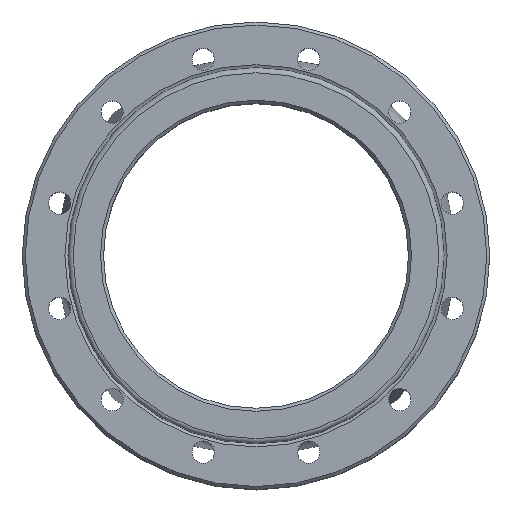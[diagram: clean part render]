
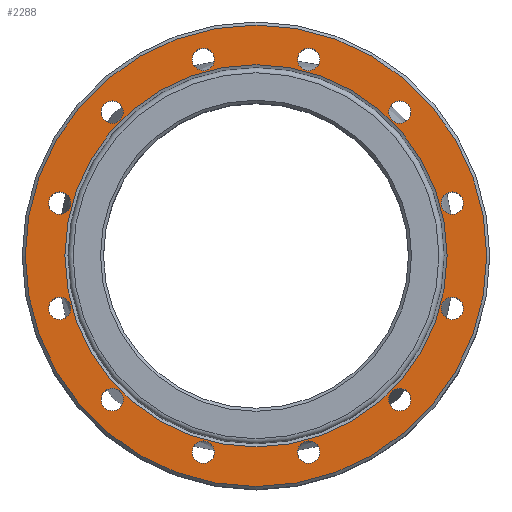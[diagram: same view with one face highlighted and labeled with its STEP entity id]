
A CAD part, top view. The second image highlights one B-rep face of the part: STEP entity #2288.
In plain terms, the highlighted planar face has unit normal (0, 0, 1).
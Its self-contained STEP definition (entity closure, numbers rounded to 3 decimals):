
#124=PLANE('',#2541);
#384=FACE_BOUND('',#710,.T.);
#385=FACE_BOUND('',#711,.T.);
#386=FACE_BOUND('',#712,.T.);
#387=FACE_BOUND('',#713,.T.);
#388=FACE_BOUND('',#714,.T.);
#389=FACE_BOUND('',#715,.T.);
#390=FACE_BOUND('',#716,.T.);
#391=FACE_BOUND('',#717,.T.);
#392=FACE_BOUND('',#718,.T.);
#393=FACE_BOUND('',#719,.T.);
#394=FACE_BOUND('',#720,.T.);
#395=FACE_BOUND('',#721,.T.);
#396=FACE_BOUND('',#722,.T.);
#550=FACE_OUTER_BOUND('',#709,.T.);
#709=EDGE_LOOP('',(#1979));
#710=EDGE_LOOP('',(#1980));
#711=EDGE_LOOP('',(#1981));
#712=EDGE_LOOP('',(#1982));
#713=EDGE_LOOP('',(#1983));
#714=EDGE_LOOP('',(#1984));
#715=EDGE_LOOP('',(#1985));
#716=EDGE_LOOP('',(#1986));
#717=EDGE_LOOP('',(#1987));
#718=EDGE_LOOP('',(#1988));
#719=EDGE_LOOP('',(#1989));
#720=EDGE_LOOP('',(#1990));
#721=EDGE_LOOP('',(#1991));
#722=EDGE_LOOP('',(#1992));
#886=CIRCLE('',#2540,227.);
#887=CIRCLE('',#2542,11.);
#888=CIRCLE('',#2543,11.);
#889=CIRCLE('',#2544,11.);
#890=CIRCLE('',#2545,11.);
#891=CIRCLE('',#2546,11.);
#892=CIRCLE('',#2547,11.);
#893=CIRCLE('',#2548,11.);
#894=CIRCLE('',#2549,11.);
#895=CIRCLE('',#2550,11.);
#896=CIRCLE('',#2551,11.);
#897=CIRCLE('',#2552,11.);
#898=CIRCLE('',#2553,11.);
#899=CIRCLE('',#2554,188.);
#1097=VERTEX_POINT('',#4837);
#1098=VERTEX_POINT('',#4841);
#1099=VERTEX_POINT('',#4843);
#1100=VERTEX_POINT('',#4845);
#1101=VERTEX_POINT('',#4847);
#1102=VERTEX_POINT('',#4849);
#1103=VERTEX_POINT('',#4851);
#1104=VERTEX_POINT('',#4853);
#1105=VERTEX_POINT('',#4855);
#1106=VERTEX_POINT('',#4857);
#1107=VERTEX_POINT('',#4859);
#1108=VERTEX_POINT('',#4861);
#1109=VERTEX_POINT('',#4863);
#1110=VERTEX_POINT('',#4865);
#1398=EDGE_CURVE('',#1097,#1097,#886,.T.);
#1399=EDGE_CURVE('',#1098,#1098,#887,.T.);
#1400=EDGE_CURVE('',#1099,#1099,#888,.T.);
#1401=EDGE_CURVE('',#1100,#1100,#889,.T.);
#1402=EDGE_CURVE('',#1101,#1101,#890,.T.);
#1403=EDGE_CURVE('',#1102,#1102,#891,.T.);
#1404=EDGE_CURVE('',#1103,#1103,#892,.T.);
#1405=EDGE_CURVE('',#1104,#1104,#893,.T.);
#1406=EDGE_CURVE('',#1105,#1105,#894,.T.);
#1407=EDGE_CURVE('',#1106,#1106,#895,.T.);
#1408=EDGE_CURVE('',#1107,#1107,#896,.T.);
#1409=EDGE_CURVE('',#1108,#1108,#897,.T.);
#1410=EDGE_CURVE('',#1109,#1109,#898,.T.);
#1411=EDGE_CURVE('',#1110,#1110,#899,.T.);
#1979=ORIENTED_EDGE('',*,*,#1398,.F.);
#1980=ORIENTED_EDGE('',*,*,#1399,.F.);
#1981=ORIENTED_EDGE('',*,*,#1400,.F.);
#1982=ORIENTED_EDGE('',*,*,#1401,.F.);
#1983=ORIENTED_EDGE('',*,*,#1402,.F.);
#1984=ORIENTED_EDGE('',*,*,#1403,.F.);
#1985=ORIENTED_EDGE('',*,*,#1404,.F.);
#1986=ORIENTED_EDGE('',*,*,#1405,.F.);
#1987=ORIENTED_EDGE('',*,*,#1406,.F.);
#1988=ORIENTED_EDGE('',*,*,#1407,.F.);
#1989=ORIENTED_EDGE('',*,*,#1408,.F.);
#1990=ORIENTED_EDGE('',*,*,#1409,.F.);
#1991=ORIENTED_EDGE('',*,*,#1410,.F.);
#1992=ORIENTED_EDGE('',*,*,#1411,.T.);
#2288=ADVANCED_FACE('',(#550,#384,#385,#386,#387,#388,#389,#390,#391,#392,
#393,#394,#395,#396),#124,.F.);
#2540=AXIS2_PLACEMENT_3D('',#4839,#3095,#3096);
#2541=AXIS2_PLACEMENT_3D('',#4840,#3097,#3098);
#2542=AXIS2_PLACEMENT_3D('',#4842,#3099,#3100);
#2543=AXIS2_PLACEMENT_3D('',#4844,#3101,#3102);
#2544=AXIS2_PLACEMENT_3D('',#4846,#3103,#3104);
#2545=AXIS2_PLACEMENT_3D('',#4848,#3105,#3106);
#2546=AXIS2_PLACEMENT_3D('',#4850,#3107,#3108);
#2547=AXIS2_PLACEMENT_3D('',#4852,#3109,#3110);
#2548=AXIS2_PLACEMENT_3D('',#4854,#3111,#3112);
#2549=AXIS2_PLACEMENT_3D('',#4856,#3113,#3114);
#2550=AXIS2_PLACEMENT_3D('',#4858,#3115,#3116);
#2551=AXIS2_PLACEMENT_3D('',#4860,#3117,#3118);
#2552=AXIS2_PLACEMENT_3D('',#4862,#3119,#3120);
#2553=AXIS2_PLACEMENT_3D('',#4864,#3121,#3122);
#2554=AXIS2_PLACEMENT_3D('',#4866,#3123,#3124);
#3095=DIRECTION('center_axis',(0.,0.,-1.));
#3096=DIRECTION('ref_axis',(1.,0.,0.));
#3097=DIRECTION('center_axis',(0.,0.,-1.));
#3098=DIRECTION('ref_axis',(-1.,0.,0.));
#3099=DIRECTION('center_axis',(0.,0.,1.));
#3100=DIRECTION('ref_axis',(1.,0.,0.));
#3101=DIRECTION('center_axis',(0.,0.,1.));
#3102=DIRECTION('ref_axis',(1.,0.,0.));
#3103=DIRECTION('center_axis',(0.,0.,1.));
#3104=DIRECTION('ref_axis',(1.,0.,0.));
#3105=DIRECTION('center_axis',(0.,0.,1.));
#3106=DIRECTION('ref_axis',(1.,0.,0.));
#3107=DIRECTION('center_axis',(0.,0.,1.));
#3108=DIRECTION('ref_axis',(1.,0.,0.));
#3109=DIRECTION('center_axis',(0.,0.,1.));
#3110=DIRECTION('ref_axis',(1.,0.,0.));
#3111=DIRECTION('center_axis',(0.,0.,1.));
#3112=DIRECTION('ref_axis',(1.,0.,0.));
#3113=DIRECTION('center_axis',(0.,0.,1.));
#3114=DIRECTION('ref_axis',(1.,0.,0.));
#3115=DIRECTION('center_axis',(0.,0.,1.));
#3116=DIRECTION('ref_axis',(1.,0.,0.));
#3117=DIRECTION('center_axis',(0.,0.,1.));
#3118=DIRECTION('ref_axis',(1.,0.,0.));
#3119=DIRECTION('center_axis',(0.,0.,1.));
#3120=DIRECTION('ref_axis',(1.,0.,0.));
#3121=DIRECTION('center_axis',(0.,0.,1.));
#3122=DIRECTION('ref_axis',(1.,0.,0.));
#3123=DIRECTION('center_axis',(0.,0.,-1.));
#3124=DIRECTION('ref_axis',(0.,1.,0.));
#4837=CARTESIAN_POINT('',(-227.,0.,118.5));
#4839=CARTESIAN_POINT('Origin',(0.,0.,118.5));
#4840=CARTESIAN_POINT('Origin',(0.,0.,118.5));
#4841=CARTESIAN_POINT('',(-204.185,51.764,118.5));
#4842=CARTESIAN_POINT('Origin',(-193.185,51.764,118.5));
#4843=CARTESIAN_POINT('',(-204.185,-51.764,118.5));
#4844=CARTESIAN_POINT('Origin',(-193.185,-51.764,118.5));
#4845=CARTESIAN_POINT('',(-152.421,-141.421,118.5));
#4846=CARTESIAN_POINT('Origin',(-141.421,-141.421,118.5));
#4847=CARTESIAN_POINT('',(-62.764,-193.185,118.5));
#4848=CARTESIAN_POINT('Origin',(-51.764,-193.185,118.5));
#4849=CARTESIAN_POINT('',(40.764,-193.185,118.5));
#4850=CARTESIAN_POINT('Origin',(51.764,-193.185,118.5));
#4851=CARTESIAN_POINT('',(130.421,-141.421,118.5));
#4852=CARTESIAN_POINT('Origin',(141.421,-141.421,118.5));
#4853=CARTESIAN_POINT('',(182.185,-51.764,118.5));
#4854=CARTESIAN_POINT('Origin',(193.185,-51.764,118.5));
#4855=CARTESIAN_POINT('',(182.185,51.764,118.5));
#4856=CARTESIAN_POINT('Origin',(193.185,51.764,118.5));
#4857=CARTESIAN_POINT('',(130.421,141.421,118.5));
#4858=CARTESIAN_POINT('Origin',(141.421,141.421,118.5));
#4859=CARTESIAN_POINT('',(40.764,193.185,118.5));
#4860=CARTESIAN_POINT('Origin',(51.764,193.185,118.5));
#4861=CARTESIAN_POINT('',(-62.764,193.185,118.5));
#4862=CARTESIAN_POINT('Origin',(-51.764,193.185,118.5));
#4863=CARTESIAN_POINT('',(-152.421,141.421,118.5));
#4864=CARTESIAN_POINT('Origin',(-141.421,141.421,118.5));
#4865=CARTESIAN_POINT('',(0.,-188.,118.5));
#4866=CARTESIAN_POINT('Origin',(0.,0.,118.5));
